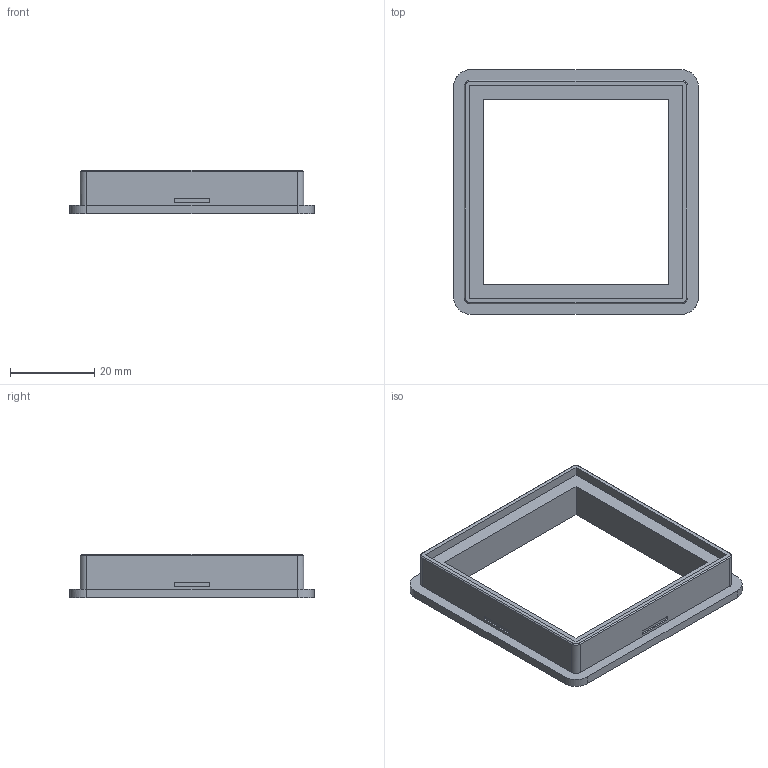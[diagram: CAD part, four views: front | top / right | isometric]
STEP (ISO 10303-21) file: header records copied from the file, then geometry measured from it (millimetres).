
FILE_DESCRIPTION(('FreeCAD Model'),'2;1');
FILE_NAME('Open CASCADE Shape Model','2026-10-03T15:52:22',('Author'),( ''),'Open CASCADE STEP processor 7.8','FreeCAD','Unknown');
FILE_SCHEMA(('AUTOMOTIVE_DESIGN { 1 0 10303 214 1 1 1 1 }'));
Length unit declared in the file: millimetre
Products named in the file (1): OPTIONAL_HiddenLock_Base_Rim_Test
Bounding box: 58 x 58 x 10.4 mm (x, y, z)
Volume: 8750.1 mm3; surface area: 6929.9 mm2
Topology: 1 solids, 1 shells, 56 faces, 136 edges, 88 vertices
Faces by surface type: bspline 56
Entity records: 1486 total; most frequent: CARTESIAN_POINT 629, ORIENTED_EDGE 272, EDGE_CURVE 136, B_SPLINE_CURVE_WITH_KNOTS 116, VERTEX_POINT 88, FACE_BOUND 64, EDGE_LOOP 64, ADVANCED_FACE 56
